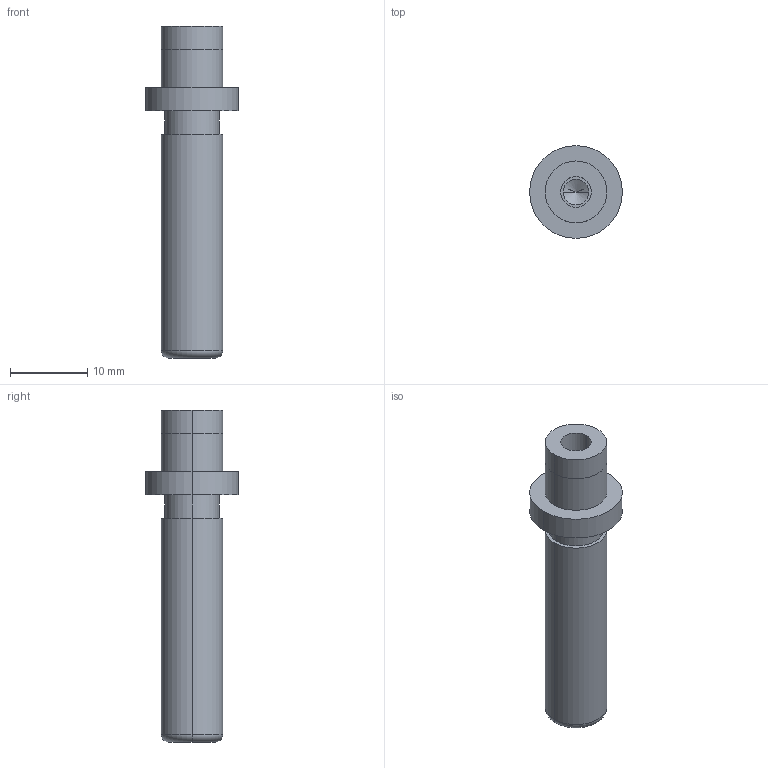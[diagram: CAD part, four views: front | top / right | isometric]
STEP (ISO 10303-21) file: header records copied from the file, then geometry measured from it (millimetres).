
FILE_DESCRIPTION(/* description */ (''),/* implementation_level */ '2;1');
FILE_NAME(/* name */ '3d_sgpw8-35_05253_r00.stp',/* time_stamp */ '2011-01-10T14:11:02+09:00',/* author */ ('MISUMI'),/* organization */ (''),/* preprocessor_version */ 'ST-DEVELOPER v11',/* originating_system */ 'UGS - NX 5.0',/* authorisation */ '');
FILE_SCHEMA (('CONFIG_CONTROL_DESIGN'));
Length unit declared in the file: millimetre
Products named in the file (1): 3d_sgpw8-35_05253_r00
Bounding box: 12 x 12 x 43 mm (x, y, z)
Volume: 2018.5 mm3; surface area: 1642.9 mm2
Topology: 1 solids, 1 shells, 31 faces, 64 edges, 38 vertices
Faces by surface type: cylinder 18, plane 7, cone 4, torus 2
Entity records: 890 total; most frequent: DIRECTION 162, CARTESIAN_POINT 130, ORIENTED_EDGE 120, AXIS2_PLACEMENT_3D 70, EDGE_CURVE 60, EDGE_LOOP 38, CIRCLE 38, VERTEX_POINT 38
